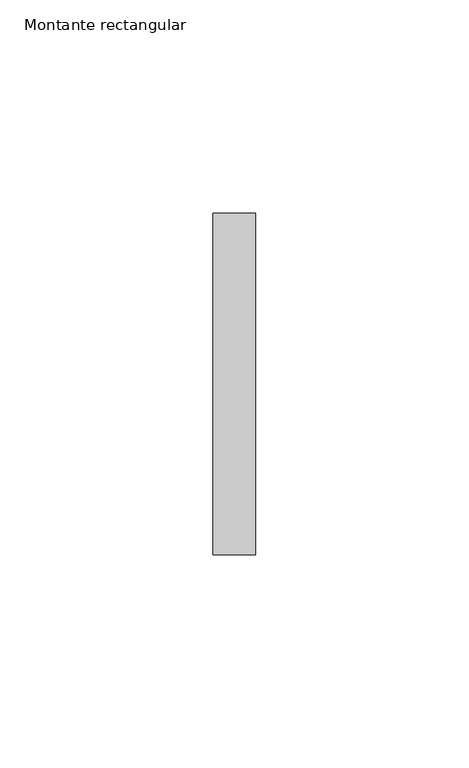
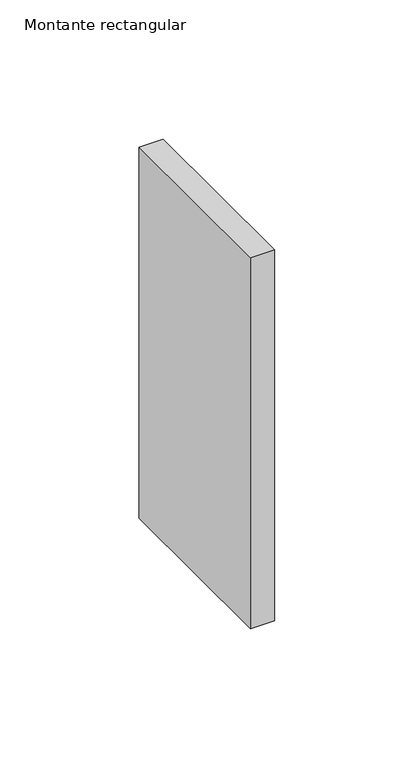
"""IFC4 building model written with IfcOpenShell, lengths in millimetres: member geometry, Montante rectangular : Junta de paves."""

from ifc_helpers import new_model, si_unit, frame, origin, place, context, project, spatial, polyline, outline, extrude, source, transform, mapped, element, save


def montante_rectangular_b110d746(model_context):
    return source(origin(), model_context, "Body", "SweptSolid", [
        extrude(outline(polyline([(-10.0, 40.0), (0.0, 40.0), (0.0, -40.0), (-10.0, -40.0), (-10.0, 40.0)])), frame((0.0, 0.0, -162.5), z_axis=(0.0, 0.0, 1.0), x_axis=(1.0, 0.0, 0.0)), (0.0, 0.0, 1.0), 162.5),
    ])


if __name__ == "__main__":
    model = new_model("IFC4")
    model_context = context("Model", 3, world=origin())
    ifc_project = project(units=[si_unit("LENGTHUNIT", "METRE", prefix="MILLI")], contexts=[model_context])
    site = spatial("IfcSite", under=ifc_project)
    building = spatial("IfcBuilding", under=site)
    placement = place(None, origin())
    montante_rectangular_shape = montante_rectangular_b110d746(model_context)
    element("IfcMember", 1, ObjectType="Montante rectangular : Junta de paves", at=placement, inside=building, context=model_context, shape_type="MappedRepresentation", body=[
        mapped(montante_rectangular_shape, transform((0.0, 0.0, 0.0), x_axis=(1.0, 0.0, 0.0), y_axis=(0.0, 1.0, 0.0), z_axis=(0.0, 0.0, 1.0))),
    ])
    save(model, "model.ifc")
